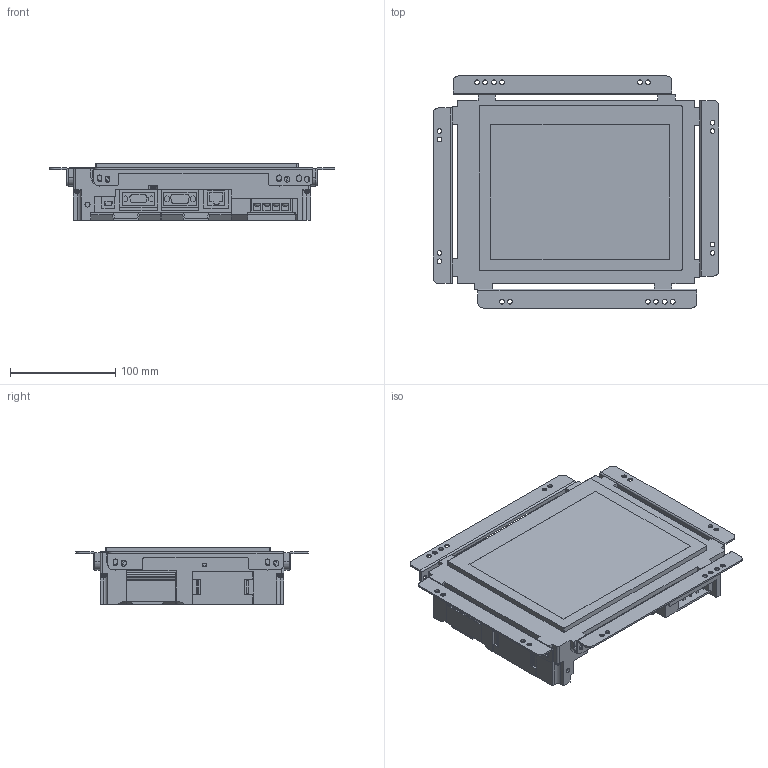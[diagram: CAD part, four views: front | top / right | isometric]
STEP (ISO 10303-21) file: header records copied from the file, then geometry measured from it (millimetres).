
FILE_DESCRIPTION((''),'2;1');
FILE_NAME('GT2508F_ASM','2015-12-08T',('KW48605'),(''),'PRO/ENGINEER BY PARAMETRIC TECHNOLOGY CORPORATION, 2014200','PRO/ENGINEER BY PARAMETRIC TECHNOLOGY CORPORATION, 2014200','');
FILE_SCHEMA(('CONFIG_CONTROL_DESIGN'));
Length unit declared in the file: millimetre
Products named in the file (7): GT2508F; COVER_1; COVER_2; COVER_3; TORITSUKE_A; TORITSUKE_B; GT2508F_ASM
Assembly tree (9 placements, depth 2):
  GT2508F_ASM
    GT2508F
    COVER_1  x2
    COVER_2
    COVER_3
    TORITSUKE_A  x2
    TORITSUKE_B  x2
Bounding box: 272 x 221 x 54 mm (x, y, z)
Volume: 1860379.2 mm3; surface area: 218250.2 mm2
Topology: 9 solids, 13 shells, 1105 faces, 3031 edges, 2020 vertices
Faces by surface type: plane 711, cylinder 340, sphere 26, cone 14, torus 12, bspline 2
Entity records: 32076 total; most frequent: CARTESIAN_POINT 6629, ORIENTED_EDGE 5302, DIRECTION 5151, EDGE_CURVE 2651, VECTOR 1877, LINE 1877, VERTEX_POINT 1784, AXIS2_PLACEMENT_3D 1637
